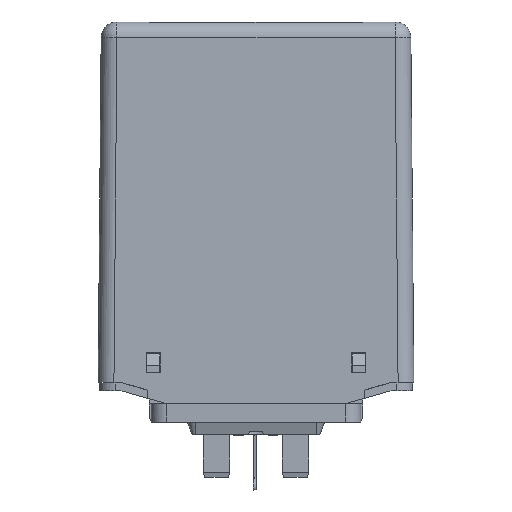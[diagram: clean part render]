
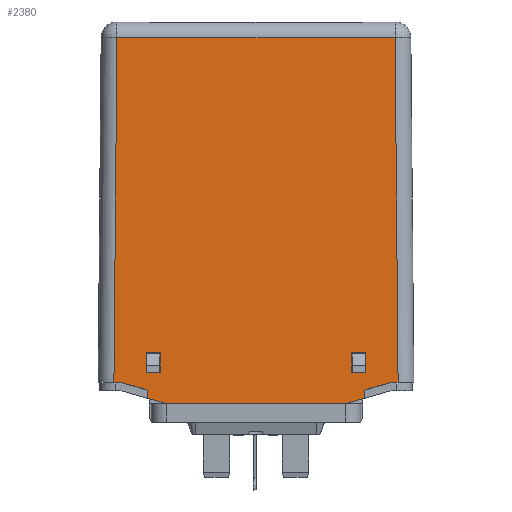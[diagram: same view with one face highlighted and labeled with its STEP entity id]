
A CAD part, left-side view. The second image highlights one B-rep face of the part: STEP entity #2380.
In plain terms, the highlighted planar face has unit normal (-1, 0, 0.009).
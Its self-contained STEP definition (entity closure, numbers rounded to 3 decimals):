
#447=CARTESIAN_POINT('',(-19.949,18.1,1.739));
#448=VERTEX_POINT('',#447);
#455=CARTESIAN_POINT('',(-19.915,18.1,5.539));
#456=VERTEX_POINT('',#455);
#457=CARTESIAN_POINT('',(-19.915,18.1,5.539));
#458=DIRECTION('',(-0.009,0.,-1.));
#459=VECTOR('',#458,3.8);
#460=LINE('',#457,#459);
#461=EDGE_CURVE('',#456,#448,#460,.T.);
#580=CARTESIAN_POINT('',(-19.915,20.9,5.539));
#581=VERTEX_POINT('',#580);
#582=CARTESIAN_POINT('',(-19.915,20.9,5.539));
#583=DIRECTION('',(0.0,-1.0,0.0));
#584=VECTOR('',#583,2.8);
#585=LINE('',#582,#584);
#586=EDGE_CURVE('',#581,#456,#585,.T.);
#633=CARTESIAN_POINT('',(-19.949,20.9,1.739));
#634=VERTEX_POINT('',#633);
#635=CARTESIAN_POINT('',(-19.949,20.9,1.739));
#636=DIRECTION('',(0.009,0.0,1.));
#637=VECTOR('',#636,3.8);
#638=LINE('',#635,#637);
#639=EDGE_CURVE('',#634,#581,#638,.T.);
#672=CARTESIAN_POINT('',(-19.949,18.1,1.739));
#673=DIRECTION('',(0.0,1.0,0.0));
#674=VECTOR('',#673,2.8);
#675=LINE('',#672,#674);
#676=EDGE_CURVE('',#448,#634,#675,.T.);
#759=CARTESIAN_POINT('',(-19.949,-20.9,1.739));
#760=VERTEX_POINT('',#759);
#767=CARTESIAN_POINT('',(-19.915,-20.9,5.539));
#768=VERTEX_POINT('',#767);
#769=CARTESIAN_POINT('',(-19.915,-20.9,5.539));
#770=DIRECTION('',(-0.009,0.,-1.));
#771=VECTOR('',#770,3.8);
#772=LINE('',#769,#771);
#773=EDGE_CURVE('',#768,#760,#772,.T.);
#892=CARTESIAN_POINT('',(-19.915,-18.1,5.539));
#893=VERTEX_POINT('',#892);
#894=CARTESIAN_POINT('',(-19.915,-18.1,5.539));
#895=DIRECTION('',(0.0,-1.0,0.0));
#896=VECTOR('',#895,2.8);
#897=LINE('',#894,#896);
#898=EDGE_CURVE('',#893,#768,#897,.T.);
#945=CARTESIAN_POINT('',(-19.949,-18.1,1.739));
#946=VERTEX_POINT('',#945);
#947=CARTESIAN_POINT('',(-19.949,-18.1,1.739));
#948=DIRECTION('',(0.009,0.0,1.));
#949=VECTOR('',#948,3.8);
#950=LINE('',#947,#949);
#951=EDGE_CURVE('',#946,#893,#950,.T.);
#984=CARTESIAN_POINT('',(-19.949,-20.9,1.739));
#985=DIRECTION('',(0.0,1.0,0.0));
#986=VECTOR('',#985,2.8);
#987=LINE('',#984,#986);
#988=EDGE_CURVE('',#760,#946,#987,.T.);
#1652=CARTESIAN_POINT('',(-19.965,-25.7,-0.161));
#1653=VERTEX_POINT('',#1652);
#1660=CARTESIAN_POINT('',(-19.978,-20.65,-1.609));
#1661=VERTEX_POINT('',#1660);
#1662=CARTESIAN_POINT('',(-19.978,-20.65,-1.609));
#1663=DIRECTION('',(0.002,-0.961,0.276));
#1664=VECTOR('',#1663,5.254);
#1665=LINE('',#1662,#1664);
#1666=EDGE_CURVE('',#1661,#1653,#1665,.T.);
#1716=CARTESIAN_POINT('',(-19.991,-20.65,-3.161));
#1717=VERTEX_POINT('',#1716);
#1718=CARTESIAN_POINT('',(-19.991,-20.65,-3.161));
#1719=DIRECTION('',(0.009,0.0,1.));
#1720=VECTOR('',#1719,1.552);
#1721=LINE('',#1718,#1720);
#1722=EDGE_CURVE('',#1717,#1661,#1721,.T.);
#1754=CARTESIAN_POINT('',(-20.0,-17.163,-4.161));
#1755=VERTEX_POINT('',#1754);
#1756=CARTESIAN_POINT('',(-20.0,-17.163,-4.161));
#1757=DIRECTION('',(0.002,-0.961,0.276));
#1758=VECTOR('',#1757,3.628);
#1759=LINE('',#1756,#1758);
#1760=EDGE_CURVE('',#1755,#1717,#1759,.T.);
#1808=CARTESIAN_POINT('',(-20.,17.163,-4.161));
#1809=VERTEX_POINT('',#1808);
#1810=CARTESIAN_POINT('',(-20.0,-17.163,-4.161));
#1811=DIRECTION('',(0.0,1.0,0.0));
#1812=VECTOR('',#1811,34.325);
#1813=LINE('',#1810,#1812);
#1814=EDGE_CURVE('',#1755,#1809,#1813,.T.);
#1856=CARTESIAN_POINT('',(-19.991,20.65,-3.161));
#1857=VERTEX_POINT('',#1856);
#1858=CARTESIAN_POINT('',(-19.991,20.65,-3.161));
#1859=DIRECTION('',(-0.002,-0.961,-0.276));
#1860=VECTOR('',#1859,3.628);
#1861=LINE('',#1858,#1860);
#1862=EDGE_CURVE('',#1857,#1809,#1861,.T.);
#1918=CARTESIAN_POINT('',(-19.978,20.65,-1.609));
#1919=VERTEX_POINT('',#1918);
#1920=CARTESIAN_POINT('',(-19.978,20.65,-1.609));
#1921=DIRECTION('',(-0.009,0.0,-1.));
#1922=VECTOR('',#1921,1.552);
#1923=LINE('',#1920,#1922);
#1924=EDGE_CURVE('',#1919,#1857,#1923,.T.);
#1973=CARTESIAN_POINT('',(-19.965,25.7,-0.161));
#1974=VERTEX_POINT('',#1973);
#1975=CARTESIAN_POINT('',(-19.965,25.7,-0.161));
#1976=DIRECTION('',(-0.002,-0.961,-0.276));
#1977=VECTOR('',#1976,5.254);
#1978=LINE('',#1975,#1977);
#1979=EDGE_CURVE('',#1974,#1919,#1978,.T.);
#1997=CARTESIAN_POINT('',(-19.393,26.433,65.365));
#1998=VERTEX_POINT('',#1997);
#2061=CARTESIAN_POINT('',(-19.393,-26.433,65.365));
#2062=VERTEX_POINT('',#2061);
#2195=CARTESIAN_POINT('',(-19.965,-27.005,-0.161));
#2196=VERTEX_POINT('',#2195);
#2213=CARTESIAN_POINT('',(-19.393,-26.433,65.365));
#2214=DIRECTION('',(-0.009,-0.009,-1.));
#2215=VECTOR('',#2214,65.531);
#2216=LINE('',#2213,#2215);
#2217=EDGE_CURVE('',#2062,#2196,#2216,.T.);
#2228=CARTESIAN_POINT('',(-19.393,26.433,65.365));
#2229=DIRECTION('',(0.0,-1.0,0.0));
#2230=VECTOR('',#2229,52.866);
#2231=LINE('',#2228,#2230);
#2232=EDGE_CURVE('',#1998,#2062,#2231,.T.);
#2297=CARTESIAN_POINT('',(-19.965,27.005,-0.161));
#2298=VERTEX_POINT('',#2297);
#2306=CARTESIAN_POINT('',(-19.965,27.005,-0.161));
#2307=DIRECTION('',(0.009,-0.009,1.));
#2308=VECTOR('',#2307,65.531);
#2309=LINE('',#2306,#2308);
#2310=EDGE_CURVE('',#2298,#1998,#2309,.T.);
#2339=CARTESIAN_POINT('',(-20.,-30.04,-4.161));
#2340=DIRECTION('',(-1.,0.,0.009));
#2341=DIRECTION('',(0.0,-1.0,0.0));
#2342=AXIS2_PLACEMENT_3D('',#2339,#2340,#2341);
#2343=PLANE('',#2342);
#2344=ORIENTED_EDGE('',*,*,#2217,.F.);
#2345=ORIENTED_EDGE('',*,*,#2232,.F.);
#2346=ORIENTED_EDGE('',*,*,#2310,.F.);
#2347=CARTESIAN_POINT('',(-19.965,27.005,-0.161));
#2348=DIRECTION('',(0.0,-1.0,0.0));
#2349=VECTOR('',#2348,1.305);
#2350=LINE('',#2347,#2349);
#2351=EDGE_CURVE('',#2298,#1974,#2350,.T.);
#2352=ORIENTED_EDGE('',*,*,#2351,.T.);
#2353=ORIENTED_EDGE('',*,*,#1979,.T.);
#2354=ORIENTED_EDGE('',*,*,#1924,.T.);
#2355=ORIENTED_EDGE('',*,*,#1862,.T.);
#2356=ORIENTED_EDGE('',*,*,#1814,.F.);
#2357=ORIENTED_EDGE('',*,*,#1760,.T.);
#2358=ORIENTED_EDGE('',*,*,#1722,.T.);
#2359=ORIENTED_EDGE('',*,*,#1666,.T.);
#2360=CARTESIAN_POINT('',(-19.965,-25.7,-0.161));
#2361=DIRECTION('',(0.0,-1.0,0.0));
#2362=VECTOR('',#2361,1.305);
#2363=LINE('',#2360,#2362);
#2364=EDGE_CURVE('',#1653,#2196,#2363,.T.);
#2365=ORIENTED_EDGE('',*,*,#2364,.T.);
#2366=EDGE_LOOP('',(#2344,#2345,#2346,#2352,#2353,#2354,#2355,#2356,#2357,#2358,#2359,#2365));
#2367=FACE_OUTER_BOUND('',#2366,.T.);
#2368=ORIENTED_EDGE('',*,*,#639,.T.);
#2369=ORIENTED_EDGE('',*,*,#586,.T.);
#2370=ORIENTED_EDGE('',*,*,#461,.T.);
#2371=ORIENTED_EDGE('',*,*,#676,.T.);
#2372=EDGE_LOOP('',(#2368,#2369,#2370,#2371));
#2373=FACE_BOUND('',#2372,.T.);
#2374=ORIENTED_EDGE('',*,*,#951,.T.);
#2375=ORIENTED_EDGE('',*,*,#898,.T.);
#2376=ORIENTED_EDGE('',*,*,#773,.T.);
#2377=ORIENTED_EDGE('',*,*,#988,.T.);
#2378=EDGE_LOOP('',(#2374,#2375,#2376,#2377));
#2379=FACE_BOUND('',#2378,.T.);
#2380=ADVANCED_FACE('',(#2367,#2373,#2379),#2343,.T.);
